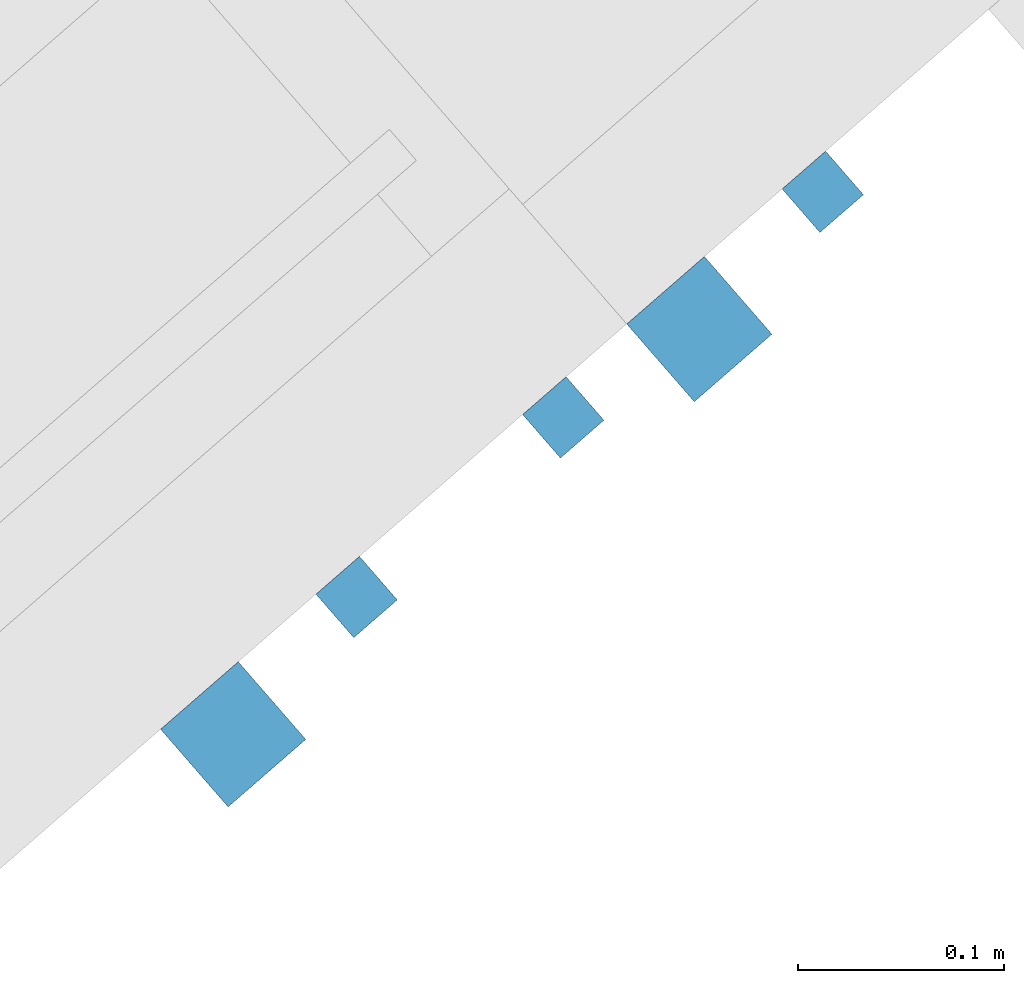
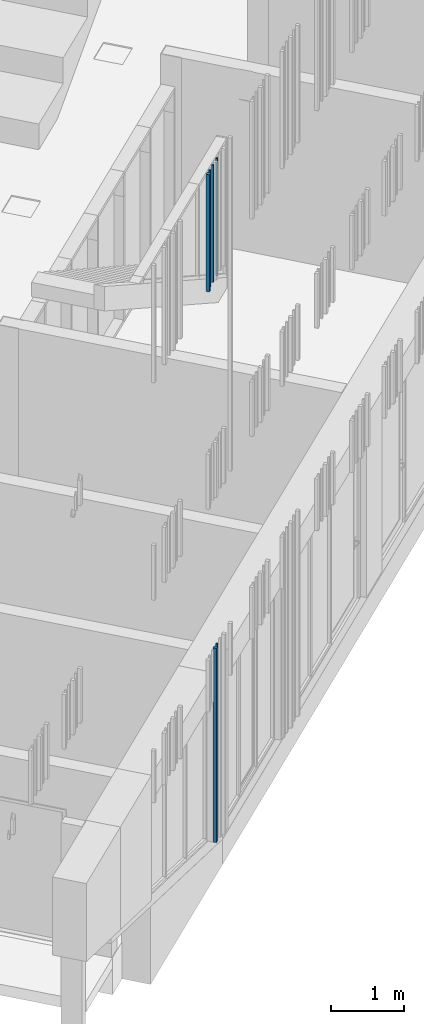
# One storey, part 36 of 124: 6 walls.
"""IFC2X3 building model written with IfcOpenShell, lengths in millimetres."""

from ifc_helpers import new_model, entity, si_unit, converted_unit, derived_unit, money_unit, direction, frame, origin_with_axes, place, context, subcontext, project, spatial, faceted_brep, material, type_object, element, save


model = new_model("IFC2X3")

# Units and contexts
model_context = context("Model", 3, precision=1e-05, world=origin_with_axes(), true_north=direction((0.0, 1.0)))
body_context = subcontext(model_context, "Body", "Model", "MODEL_VIEW")
ifc_project = project(units=[si_unit("LENGTHUNIT", "METRE", prefix="MILLI"), si_unit("AREAUNIT", "SQUARE_METRE"), si_unit("VOLUMEUNIT", "CUBIC_METRE"), converted_unit("PLANEANGLEUNIT", "DEGREE", entity("IfcPlaneAngleMeasure", 0.0174532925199), si_unit("PLANEANGLEUNIT", "RADIAN"), dimensions=[0, 0, 0, 0, 0, 0, 0]), si_unit("SOLIDANGLEUNIT", "STERADIAN"), money_unit("EUR"), converted_unit("TIMEUNIT", "Year", entity("IfcTimeMeasure", 31556926.0), si_unit("TIMEUNIT", "SECOND"), dimensions=[0, 0, 1, 0, 0, 0, 0]), si_unit("MASSUNIT", "GRAM", prefix="KILO"), si_unit("THERMODYNAMICTEMPERATUREUNIT", "DEGREE_CELSIUS"), si_unit("LUMINOUSINTENSITYUNIT", "LUMEN"), si_unit("ENERGYUNIT", "JOULE", prefix="MEGA"), derived_unit("THERMALCONDUCTANCEUNIT", [(si_unit("POWERUNIT", "WATT"), 1), (si_unit("LENGTHUNIT", "METRE"), -1), (si_unit("THERMODYNAMICTEMPERATUREUNIT", "KELVIN"), -1)]), derived_unit("SPECIFICHEATCAPACITYUNIT", [(si_unit("ENERGYUNIT", "JOULE"), 1), (si_unit("MASSUNIT", "GRAM", prefix="KILO"), -1), (si_unit("THERMODYNAMICTEMPERATUREUNIT", "KELVIN"), -1)]), derived_unit("MASSDENSITYUNIT", [(si_unit("MASSUNIT", "GRAM", prefix="KILO"), 1), (si_unit("VOLUMEUNIT", "CUBIC_METRE"), -1)])], contexts=[model_context])

# Site, building, storey
site_placement = place(None, origin_with_axes())
site = spatial("IfcSite", under=ifc_project, at=site_placement, Name="Site", CompositionType="ELEMENT")
building_placement = place(site_placement, origin_with_axes())
building = spatial("IfcBuilding", under=site, at=building_placement, Name="Building", CompositionType="ELEMENT")
storey_placement = place(building_placement, frame((0.0, 0.0, -1615.0), z_axis=(0.0, 0.0, 1.0), x_axis=(1.0, 0.0, 0.0)))
storey = spatial("IfcBuildingStorey", under=building, at=storey_placement, Name="0  korrus", CompositionType="ELEMENT", Elevation=-1615.0)

# Walls
ifc_material = material(Name="Site specified")
wall_type = type_object("IfcWallType", Name="Puitfassaadi ribistik", PredefinedType="NOTDEFINED")
wall_1_placement = place(storey_placement, frame((152905.112235, 77563.5784916, 9530.0), z_axis=(0.0, 0.0, 1.0), x_axis=(-0.754709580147, -0.656059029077, 0.0)))
element("IfcWall", 1, at=wall_1_placement, inside=storey, type_object=wall_type, material=ifc_material, Name="Site specified", context=body_context, shape_type="Brep", body=[
    faceted_brep([(14.0, 14.0, 1950.0), (14.0, 14.0, 0.0), (-14.0, 14.0, 0.0), (-14.0, 14.0, 1950.0), (14.0, -14.0, 1950.0), (14.0, -14.0, 0.0), (-14.0, -14.0, 0.0), (-14.0, -14.0, 1950.0)], [[[0, 1, 2, 3]], [[4, 5, 1, 0]], [[2, 1, 5, 6]], [[3, 2, 6, 7]], [[4, 0, 3, 7]], [[7, 6, 5, 4]]]),
])
wall_2_placement = place(storey_placement, frame((152905.112235, 77563.5784916, 150.641665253), z_axis=(0.0, 0.0, 1.0), x_axis=(-0.754709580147, -0.656059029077, 0.0)))
element("IfcWall", 2, at=wall_2_placement, inside=storey, type_object=wall_type, material=ifc_material, Name="Site specified", context=body_context, shape_type="Brep", body=[
    faceted_brep([(14.0, 14.0, 3259.35833475), (14.0, 14.0, 0.0), (-14.0, 14.0, 0.0), (-14.0, 14.0, 3259.35833475), (14.0, -14.0, 3259.35833475), (14.0, -14.0, 0.0), (-14.0, -14.0, 0.0), (-14.0, -14.0, 3259.35833475)], [[[0, 1, 2, 3]], [[4, 5, 1, 0]], [[2, 1, 5, 6]], [[3, 2, 6, 7]], [[4, 0, 3, 7]], [[7, 6, 5, 4]]]),
])
wall_3_placement = place(storey_placement, frame((152845.157338, 77496.8853527, 179.611990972), z_axis=(0.0, 0.0, 1.0), x_axis=(-0.754709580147, -0.656059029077, 0.0)))
element("IfcWall", 3, at=wall_3_placement, inside=storey, type_object=wall_type, material=ifc_material, Name="Site specified", context=body_context, shape_type="Brep", body=[
    faceted_brep([(25.0, 25.0, 3230.38800903), (25.0, 25.0, 0.0), (-25.0, 25.0, 0.0), (-25.0, 25.0, 3230.38800903), (25.0, -25.0, 3230.38800903), (25.0, -25.0, 0.0), (-25.0, -25.0, 0.0), (-25.0, -25.0, 3230.38800903)], [[[0, 1, 2, 3]], [[4, 5, 1, 0]], [[2, 1, 5, 6]], [[3, 2, 6, 7]], [[4, 0, 3, 7]], [[7, 6, 5, 4]]]),
])
for number, where, z_axis, x_axis, name in (
    (4, (152678.685374, 77366.7481393, 9530.0), (0.0, 0.0, 1.0), (-0.754709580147, -0.656059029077, 0.0), "Site specified"),
    (5, (152779.061747, 77454.0039896, 9530.0), (0.0, 0.0, 1.0), (-0.754709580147, -0.656059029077, 0.0), "Site specified"),
):
    element("IfcWall", number, at=place(storey_placement, frame(where, z_axis=z_axis, x_axis=x_axis)), inside=storey, type_object=wall_type, material=ifc_material, Name=name, context=body_context, shape_type="Brep", body=[
        faceted_brep([(14.0, 14.0, 1950.0), (14.0, 14.0, 0.0), (-14.0, 14.0, 0.0), (-14.0, 14.0, 1950.0), (14.0, -14.0, 1950.0), (14.0, -14.0, 0.0), (-14.0, -14.0, 0.0), (-14.0, -14.0, 1950.0)], [[[0, 1, 2, 3]], [[4, 5, 1, 0]], [[2, 1, 5, 6]], [[3, 2, 6, 7]], [[4, 0, 3, 7]], [[7, 6, 5, 4]]]),
    ])
wall_4_placement = place(storey_placement, frame((152618.730478, 77300.0550004, 9530.0), z_axis=(0.0, 0.0, 1.0), x_axis=(-0.754709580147, -0.656059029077, 0.0)))
element("IfcWall", 6, at=wall_4_placement, inside=storey, type_object=wall_type, material=ifc_material, Name="Site specified", context=body_context, shape_type="Brep", body=[
    faceted_brep([(25.0, 25.0, 1950.0), (25.0, 25.0, 0.0), (-25.0, 25.0, 0.0), (-25.0, 25.0, 1950.0), (25.0, -25.0, 1950.0), (25.0, -25.0, 0.0), (-25.0, -25.0, 0.0), (-25.0, -25.0, 1950.0)], [[[0, 1, 2, 3]], [[4, 5, 1, 0]], [[2, 1, 5, 6]], [[3, 2, 6, 7]], [[4, 0, 3, 7]], [[7, 6, 5, 4]]]),
])

save(model, "model.ifc")
